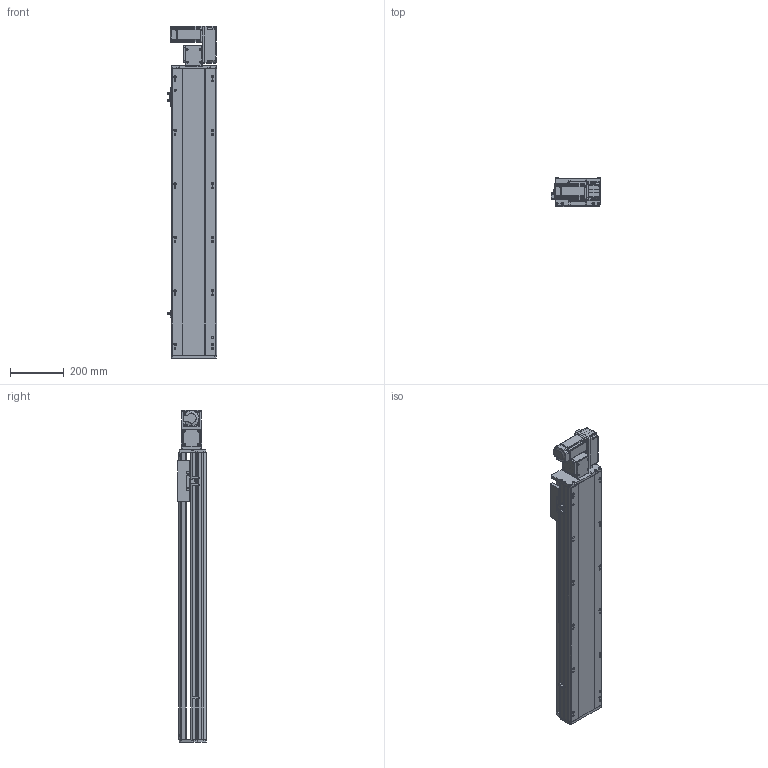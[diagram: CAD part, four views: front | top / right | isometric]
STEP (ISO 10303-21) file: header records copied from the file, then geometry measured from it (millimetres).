
FILE_DESCRIPTION (( 'STEP AP214' ), '1' );
FILE_NAME ('RTB17S-XX-800-R-M40-C4.STEP', '2025-12-11T07:36:35', ( '' ), ( '' ), 'SwSTEP 2.0', 'SolidWorks 2018', '' );
FILE_SCHEMA (( 'AUTOMOTIVE_DESIGN' ));
Length unit declared in the file: millimetre
Products named in the file (14): 400W侜督萇儂^RTB17S-XX-XX-R-M40-C4; RTB14-L-008-M20--萇儂啣^RTB17S-R-々湍釱蚾饜-400W_RTB17S-XX-XX-R-M40-C4; RTB14-L-018P^RTB17S-R-々湍釱蚾饜-400W_RTB17S-XX-XX-R-M40-C4; RTB14-L-017P^RTB17S-R-々湍釱蚾饜-400W_RTB17S-XX-XX-R-M40-C4; RTB17S-L-001耜醱啣^RTB17S-XX-XX-R-M40-C4; RTB17S-L-004佪裝蹟譫蟀諉釱^RTB17S-XX-XX-R-M40-C4; RTB17S-L-014-T20--々湍釱^RTB17S-R-々湍釱蚾饜-400W_RTB17S-XX-XX-R-M40-C4; RTB17S-L-007奻裔^RTB17S-XX-XX-R-M40-C4; RTB17S-XX-800-R-M40-C4; RTB14-L-005P--轴承塑胶压盖^RTB17S-R-皮带座装配-400W_RTB17S-XX-XX-R-M40-C4; RTB17S-R-々湍釱蚾饜-400W^RTB17S-XX-XX-R-M40-C4; OMRON EE-SX672 传感器^RTB17S-XX-XX-R-M40-C4; RTB17-R-011菁釱^RTB17S-XX-XX-R-M40-C4; RTH13-BL-012覜茼え俋离^RTB17S-XX-XX-R-M40-C4
Assembly tree (16 placements, depth 3):
  RTB17S-XX-800-R-M40-C4
    RTB17-R-011菁釱^RTB17S-XX-XX-R-M40-C4
    RTB17S-L-007奻裔^RTB17S-XX-XX-R-M40-C4
    OMRON EE-SX672 传感器^RTB17S-XX-XX-R-M40-C4  x3
    RTB17S-L-001耜醱啣^RTB17S-XX-XX-R-M40-C4
    400W侜督萇儂^RTB17S-XX-XX-R-M40-C4
    RTB17S-L-004佪裝蹟譫蟀諉釱^RTB17S-XX-XX-R-M40-C4
    RTH13-BL-012覜茼え俋离^RTB17S-XX-XX-R-M40-C4
    RTB17S-R-々湍釱蚾饜-400W^RTB17S-XX-XX-R-M40-C4
      RTB17S-L-014-T20--々湍釱^RTB17S-R-々湍釱蚾饜-400W_RTB17S-XX-XX-R-M40-C4
      RTB14-L-005P--轴承塑胶压盖^RTB17S-R-皮带座装配-400W_RTB17S-XX-XX-R-M40-C4
      RTB14-L-008-M20--萇儂啣^RTB17S-R-々湍釱蚾饜-400W_RTB17S-XX-XX-R-M40-C4
      RTB14-L-017P^RTB17S-R-々湍釱蚾饜-400W_RTB17S-XX-XX-R-M40-C4  x2
      RTB14-L-018P^RTB17S-R-々湍釱蚾饜-400W_RTB17S-XX-XX-R-M40-C4
Bounding box: 183.5 x 108 x 1241 mm (x, y, z)
Volume: 10746006.8 mm3; surface area: 1319307.2 mm2
Topology: 15 solids, 15 shells, 2189 faces, 6033 edges, 3933 vertices
Faces by surface type: plane 1066, cylinder 675, bspline 301, cone 139, torus 8
Entity records: 61865 total; most frequent: CARTESIAN_POINT 17238, ORIENTED_EDGE 8910, DIRECTION 8306, EDGE_CURVE 4455, VERTEX_POINT 2921, AXIS2_PLACEMENT_3D 2851, LINE 2604, VECTOR 2604
